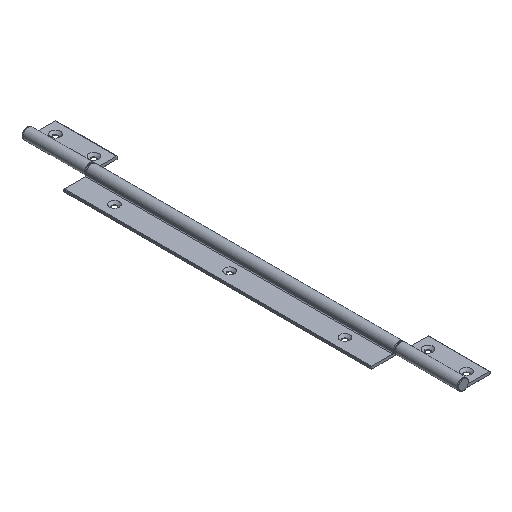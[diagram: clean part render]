
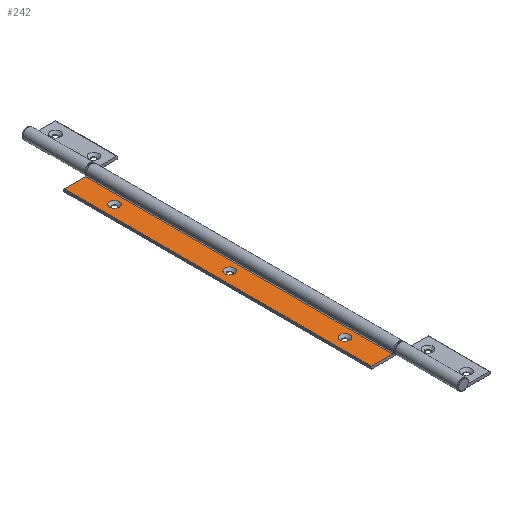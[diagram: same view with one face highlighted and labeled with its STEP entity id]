
A CAD part, isometric view. The second image highlights one B-rep face of the part: STEP entity #242.
In plain terms, the highlighted planar face has unit normal (0, 0, 1).
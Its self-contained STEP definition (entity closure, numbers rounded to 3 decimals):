
#242 = ADVANCED_FACE( '', ( #384, #385, #386, #387 ), #388, .F. );
#384 = FACE_BOUND( '', #616, .T. );
#385 = FACE_BOUND( '', #617, .T. );
#386 = FACE_BOUND( '', #618, .T. );
#387 = FACE_OUTER_BOUND( '', #619, .T. );
#388 = PLANE( '', #620 );
#616 = EDGE_LOOP( '', ( #1061 ) );
#617 = EDGE_LOOP( '', ( #1062 ) );
#618 = EDGE_LOOP( '', ( #1063 ) );
#619 = EDGE_LOOP( '', ( #1064, #1065, #1066, #1067 ) );
#620 = AXIS2_PLACEMENT_3D( '', #1068, #1069, #1070 );
#1061 = ORIENTED_EDGE( '', *, *, #1548, .F. );
#1062 = ORIENTED_EDGE( '', *, *, #1549, .F. );
#1063 = ORIENTED_EDGE( '', *, *, #1550, .F. );
#1064 = ORIENTED_EDGE( '', *, *, #1524, .T. );
#1065 = ORIENTED_EDGE( '', *, *, #1547, .F. );
#1066 = ORIENTED_EDGE( '', *, *, #1501, .F. );
#1067 = ORIENTED_EDGE( '', *, *, #1551, .T. );
#1068 = CARTESIAN_POINT( '', ( -35.5, 400., -3.5 ) );
#1069 = DIRECTION( '', ( 0., 0., -1. ) );
#1070 = DIRECTION( '', ( -1., 0., 0. ) );
#1501 = EDGE_CURVE( '', #1747, #1749, #1750, .T. );
#1524 = EDGE_CURVE( '', #1794, #1792, #1795, .T. );
#1547 = EDGE_CURVE( '', #1749, #1792, #1830, .T. );
#1548 = EDGE_CURVE( '', #1831, #1831, #1832, .T. );
#1549 = EDGE_CURVE( '', #1833, #1833, #1834, .T. );
#1550 = EDGE_CURVE( '', #1835, #1835, #1836, .T. );
#1551 = EDGE_CURVE( '', #1747, #1794, #1837, .T. );
#1747 = VERTEX_POINT( '', #2129 );
#1749 = VERTEX_POINT( '', #2131 );
#1750 = LINE( '', #2132, #2133 );
#1792 = VERTEX_POINT( '', #2188 );
#1794 = VERTEX_POINT( '', #2190 );
#1795 = LINE( '', #2191, #2192 );
#1830 = LINE( '', #2240, #2241 );
#1831 = VERTEX_POINT( '', #2242 );
#1832 = CIRCLE( '', #2243, 6.3 );
#1833 = VERTEX_POINT( '', #2244 );
#1834 = CIRCLE( '', #2245, 6.3 );
#1835 = VERTEX_POINT( '', #2246 );
#1836 = CIRCLE( '', #2247, 6.3 );
#1837 = LINE( '', #2248, #2249 );
#2129 = CARTESIAN_POINT( '', ( -35.5, 400., -3.5 ) );
#2131 = CARTESIAN_POINT( '', ( -8., 400., -3.5 ) );
#2132 = CARTESIAN_POINT( '', ( -35.5, 400., -3.5 ) );
#2133 = VECTOR( '', #2559, 1000. );
#2188 = CARTESIAN_POINT( '', ( -8., 0., -3.5 ) );
#2190 = CARTESIAN_POINT( '', ( -35.5, 0., -3.5 ) );
#2191 = CARTESIAN_POINT( '', ( -35.5, 0., -3.5 ) );
#2192 = VECTOR( '', #2600, 1000. );
#2240 = CARTESIAN_POINT( '', ( -8., 400., -3.5 ) );
#2241 = VECTOR( '', #2641, 1000. );
#2242 = CARTESIAN_POINT( '', ( -14.1, 350., -3.5 ) );
#2243 = AXIS2_PLACEMENT_3D( '', #2642, #2643, #2644 );
#2244 = CARTESIAN_POINT( '', ( -14.1, 50., -3.5 ) );
#2245 = AXIS2_PLACEMENT_3D( '', #2645, #2646, #2647 );
#2246 = CARTESIAN_POINT( '', ( -14.1, 200., -3.5 ) );
#2247 = AXIS2_PLACEMENT_3D( '', #2648, #2649, #2650 );
#2248 = CARTESIAN_POINT( '', ( -35.5, 400., -3.5 ) );
#2249 = VECTOR( '', #2651, 1000. );
#2559 = DIRECTION( '', ( 1., 0., 0. ) );
#2600 = DIRECTION( '', ( 1., 0., 0. ) );
#2641 = DIRECTION( '', ( 0., -1., 0. ) );
#2642 = CARTESIAN_POINT( '', ( -20.4, 350., -3.5 ) );
#2643 = DIRECTION( '', ( 0., 0., 1. ) );
#2644 = DIRECTION( '', ( 1., 0., 0. ) );
#2645 = CARTESIAN_POINT( '', ( -20.4, 50., -3.5 ) );
#2646 = DIRECTION( '', ( 0., 0., 1. ) );
#2647 = DIRECTION( '', ( 1., 0., 0. ) );
#2648 = CARTESIAN_POINT( '', ( -20.4, 200., -3.5 ) );
#2649 = DIRECTION( '', ( 0., 0., 1. ) );
#2650 = DIRECTION( '', ( 1., 0., 0. ) );
#2651 = DIRECTION( '', ( 0., -1., 0. ) );
